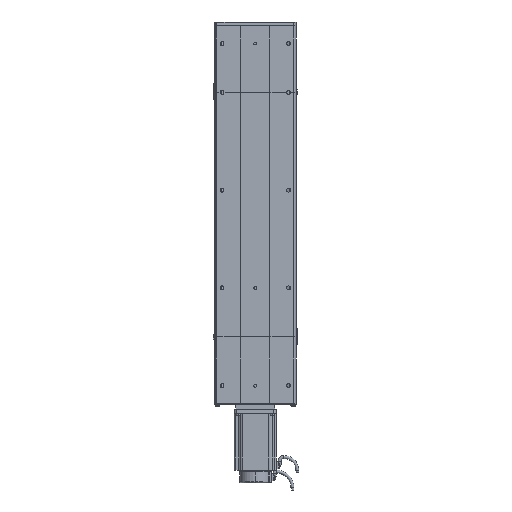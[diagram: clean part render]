
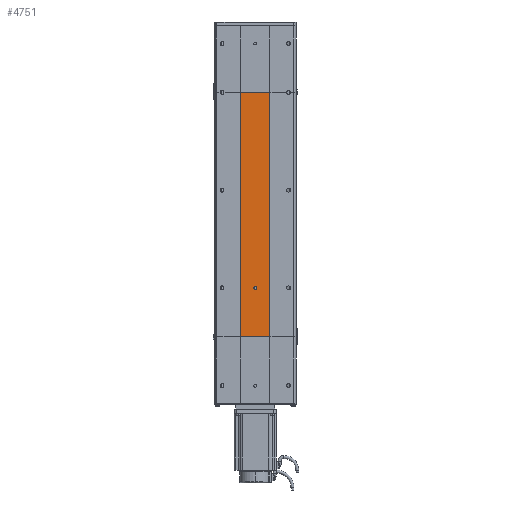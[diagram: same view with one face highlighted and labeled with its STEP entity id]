
A CAD part, front view. The second image highlights one B-rep face of the part: STEP entity #4751.
In plain terms, the highlighted planar face has unit normal (0, -1, 0).
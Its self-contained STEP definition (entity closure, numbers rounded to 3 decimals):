
#4594 = EDGE_LOOP ( 'NONE', ( #4752, #4747 ) ) ;
#4697 = ORIENTED_EDGE ( 'NONE', *, *, #72250, .T. ) ;
#4746 = EDGE_CURVE ( 'NONE', #65385, #72240, #13288, .T. ) ;
#4747 = ORIENTED_EDGE ( 'NONE', *, *, #71944, .F. ) ;
#4750 = EDGE_LOOP ( 'NONE', ( #4697, #4839, #4754, #4845 ) ) ;
#4751 = ADVANCED_FACE ( 'NONE', ( #12930, #13079 ), #13178, .F. ) ;
#4752 = ORIENTED_EDGE ( 'NONE', *, *, #4753, .F. ) ;
#4753 = EDGE_CURVE ( 'NONE', #71943, #72026, #13182, .T. ) ;
#4754 = ORIENTED_EDGE ( 'NONE', *, *, #65123, .F. ) ;
#4839 = ORIENTED_EDGE ( 'NONE', *, *, #4746, .F. ) ;
#4840 = EDGE_CURVE ( 'NONE', #65196, #72197, #13060, .T. ) ;
#4845 = ORIENTED_EDGE ( 'NONE', *, *, #4840, .T. ) ;
#12930 = FACE_BOUND ( 'NONE', #4594, .T. ) ;
#12935 = DIRECTION ( 'NONE',  ( 0., 1., 0. ) ) ;
#13021 = DIRECTION ( 'NONE',  ( 0., 0., -1. ) ) ;
#13022 = DIRECTION ( 'NONE',  ( 0., -1., 0. ) ) ;
#13024 = AXIS2_PLACEMENT_3D ( 'NONE', #13176, #13022, #13021 ) ;
#13030 = DIRECTION ( 'NONE',  ( 0., 0., 1. ) ) ;
#13052 = DIRECTION ( 'NONE',  ( 0., 0., 1. ) ) ;
#13053 = VECTOR ( 'NONE', #13052, 1000. ) ;
#13058 = CARTESIAN_POINT ( 'NONE',  ( 30., -32.5, 0. ) ) ;
#13060 = LINE ( 'NONE', #13058, #13053 ) ;
#13079 = FACE_OUTER_BOUND ( 'NONE', #4750, .T. ) ;
#13083 = AXIS2_PLACEMENT_3D ( 'NONE', #13188, #12935, #13030 ) ;
#13084 = DIRECTION ( 'NONE',  ( 0., 0., 1. ) ) ;
#13086 = CARTESIAN_POINT ( 'NONE',  ( -30., -32.5, 0. ) ) ;
#13176 = CARTESIAN_POINT ( 'NONE',  ( 0., -32.5, 100. ) ) ;
#13178 = PLANE ( 'NONE',  #13083 ) ;
#13182 = CIRCLE ( 'NONE', #13024, 3. ) ;
#13183 = VECTOR ( 'NONE', #13084, 1000. ) ;
#13188 = CARTESIAN_POINT ( 'NONE',  ( -30., -32.5, 0. ) ) ;
#13288 = LINE ( 'NONE', #13086, #13183 ) ;
#16409 = DIRECTION ( 'NONE',  ( 0., 0., -1. ) ) ;
#16410 = DIRECTION ( 'NONE',  ( 0., -1., 0. ) ) ;
#16411 = CARTESIAN_POINT ( 'NONE',  ( 0., -32.5, 100. ) ) ;
#16426 = CARTESIAN_POINT ( 'NONE',  ( 0., -32.5, 97. ) ) ;
#16427 = CIRCLE ( 'NONE', #16472, 3. ) ;
#16472 = AXIS2_PLACEMENT_3D ( 'NONE', #16411, #16410, #16409 ) ;
#16910 = CARTESIAN_POINT ( 'NONE',  ( 0., -32.5, 103. ) ) ;
#17704 = DIRECTION ( 'NONE',  ( -1., 0., 0. ) ) ;
#17706 = VECTOR ( 'NONE', #17704, 1000. ) ;
#17707 = CARTESIAN_POINT ( 'NONE',  ( -30., -32.5, 500. ) ) ;
#17740 = CARTESIAN_POINT ( 'NONE',  ( -30., -32.5, 500. ) ) ;
#17759 = LINE ( 'NONE', #17707, #17706 ) ;
#17836 = CARTESIAN_POINT ( 'NONE',  ( 30., -32.5, 500. ) ) ;
#36793 = CARTESIAN_POINT ( 'NONE',  ( 30., -32.5, 0. ) ) ;
#37443 = LINE ( 'NONE', #37563, #37562 ) ;
#37560 = DIRECTION ( 'NONE',  ( -1., 0., 0. ) ) ;
#37562 = VECTOR ( 'NONE', #37560, 1000. ) ;
#37563 = CARTESIAN_POINT ( 'NONE',  ( -30., -32.5, 0. ) ) ;
#38144 = CARTESIAN_POINT ( 'NONE',  ( -30., -32.5, 0. ) ) ;
#65123 = EDGE_CURVE ( 'NONE', #65196, #65385, #37443, .T. ) ;
#65196 = VERTEX_POINT ( 'NONE', #36793 ) ;
#65385 = VERTEX_POINT ( 'NONE', #38144 ) ;
#71943 = VERTEX_POINT ( 'NONE', #16426 ) ;
#71944 = EDGE_CURVE ( 'NONE', #72026, #71943, #16427, .T. ) ;
#72026 = VERTEX_POINT ( 'NONE', #16910 ) ;
#72197 = VERTEX_POINT ( 'NONE', #17836 ) ;
#72240 = VERTEX_POINT ( 'NONE', #17740 ) ;
#72250 = EDGE_CURVE ( 'NONE', #72197, #72240, #17759, .T. ) ;
